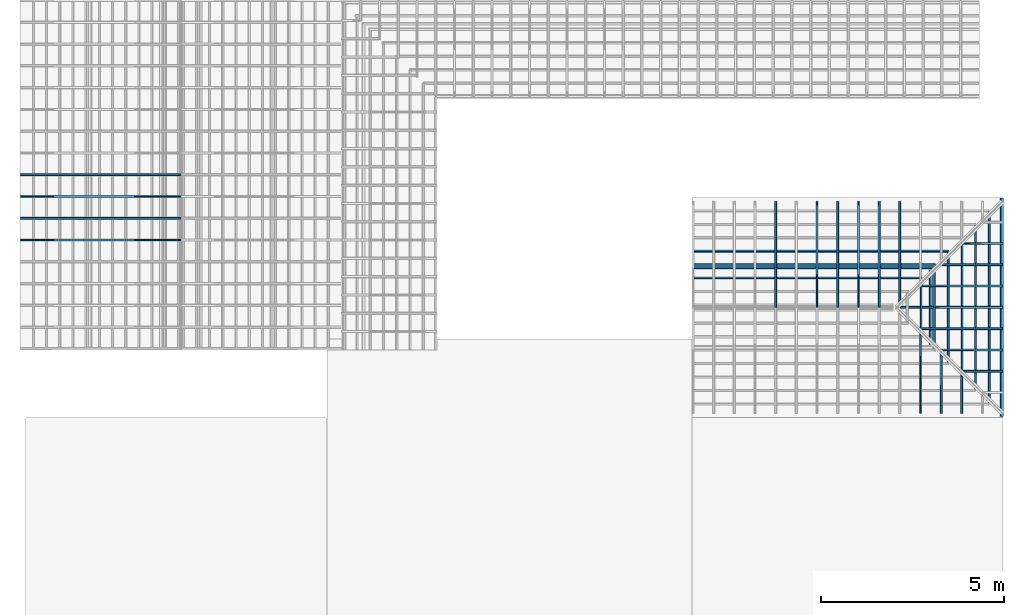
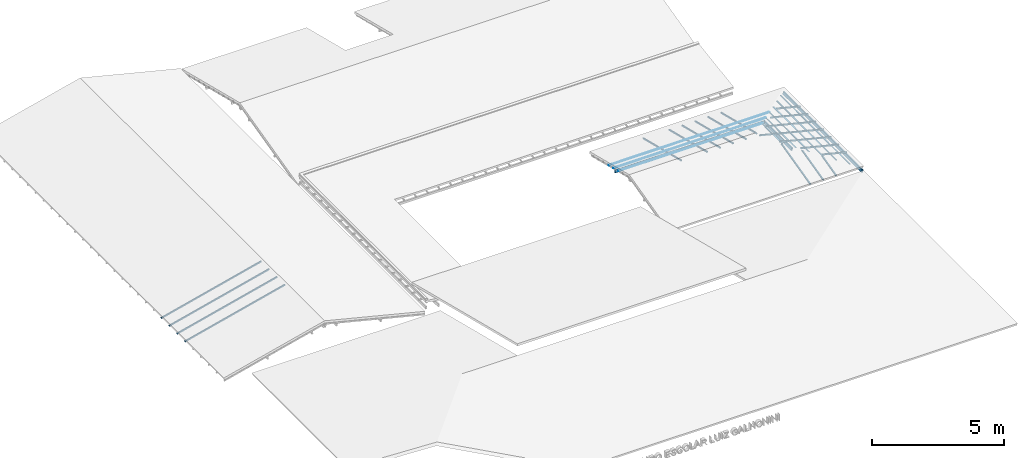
# One storey, part 2 of 10: 32 members, 4 elements without a shape of their own.
"""IFC2X3 building model written with IfcOpenShell, lengths in metres."""

import ifcopenshell
import ifcopenshell.guid

model = None  # the IFC model being written
_history = None  # IfcOwnerHistory: only IFC2X3 demands one
_inside = {}  # id of a spatial element -> (the spatial element, [elements in it])
_under = {}  # id of a project, library or spatial element -> (it, [spatial elements below it])
_declared = {}  # id of a project -> (the project, [libraries it declares])
_typed = {}  # id of a type object -> (the type object, [elements of that type])
_made_of = {}  # id of a material, layer set ... -> (it, [elements and type objects made of it])


def new_model(schema):
    """Start an empty IFC model of exactly this schema.

    Asked for "IFC4X3", IfcOpenShell would pick the latest addendum, in which some entities
    have other attributes; the version numbers below select the first issue.
    IFC2X3 requires an IfcOwnerHistory on every rooted entity: one is made here for all.
    """
    global model, _history
    if schema == "IFC4X3":
        model = ifcopenshell.file(schema_version=(4, 3, 0, 0))
    else:
        model = ifcopenshell.file(schema=schema)
    _inside.clear()
    _under.clear()
    _declared.clear()
    _typed.clear()
    _made_of.clear()
    _history = None
    if model.schema == "IFC2X3":
        org = make("IfcOrganization", Name="unknown")
        user = make(
            "IfcPersonAndOrganization",
            ThePerson=make("IfcPerson", FamilyName="unknown"),
            TheOrganization=org,
        )
        app = make(
            "IfcApplication",
            ApplicationDeveloper=org,
            Version="unknown",
            ApplicationFullName="unknown",
            ApplicationIdentifier="unknown",
        )
        _history = make(
            "IfcOwnerHistory",
            OwningUser=user,
            OwningApplication=app,
            ChangeAction="ADDED",
            CreationDate=0,
        )
    return model


def make(cls, **values):
    """One entity of the class cls with the attributes given. An attribute that is None is left unset."""
    return model.create_entity(
        cls, **{name: value for name, value in values.items() if value is not None}
    )


def entity(cls, *values):
    """Any entity or typed value of the class cls, its attributes in the order of the schema. None: left unset."""
    e = model.create_entity(cls)
    for i, value in enumerate(values):
        if value is not None:
            e[i] = value
    return e


def rooted(cls, **values):
    """An entity with a GlobalId (a new one), such as an element, a storey or a relation."""
    return make(cls, GlobalId=ifcopenshell.guid.new(), OwnerHistory=_history, **values)


def si_unit(unit_type, name, prefix=None):
    """IfcSIUnit, for example si_unit("LENGTHUNIT", "METRE", prefix="MILLI")."""
    return make("IfcSIUnit", UnitType=unit_type, Prefix=prefix, Name=name)


def converted_unit(unit_type, name, factor, base, dimensions=None, offset=None):
    """IfcConversionBasedUnit, such as the inch: factor (a typed value) times the base unit."""
    return make(
        "IfcConversionBasedUnit"
        if offset is None
        else "IfcConversionBasedUnitWithOffset",
        ConversionOffset=offset,
        Dimensions=None
        if dimensions is None
        else entity("IfcDimensionalExponents", *dimensions),
        UnitType=unit_type,
        Name=name,
        ConversionFactor=make(
            "IfcMeasureWithUnit", ValueComponent=factor, UnitComponent=base
        ),
    )


def derived_unit(unit_type, elements):
    """IfcDerivedUnit: a product of units, each with its exponent."""
    return make(
        "IfcDerivedUnit",
        Elements=[
            make("IfcDerivedUnitElement", Unit=unit, Exponent=power)
            for unit, power in elements
        ],
        UnitType=unit_type,
    )


def assignment(units):
    """IfcUnitAssignment: the units of a project."""
    return None if units is None else make("IfcUnitAssignment", Units=units)


def point(xyz):
    """IfcCartesianPoint."""
    return None if xyz is None else make("IfcCartesianPoint", Coordinates=xyz)


def direction(xyz):
    """IfcDirection."""
    return None if xyz is None else make("IfcDirection", DirectionRatios=xyz)


def frame(location, z_axis=None, x_axis=None):
    """IfcAxis2Placement3D, a coordinate frame: its origin and axes. An axis left out is left unset."""
    return make(
        "IfcAxis2Placement3D",
        Location=point(location),
        Axis=direction(z_axis),
        RefDirection=direction(x_axis),
    )


def frame_2d(location, x_axis=None):
    """IfcAxis2Placement2D, a coordinate frame in the plane: its origin and x axis."""
    return make(
        "IfcAxis2Placement2D", Location=point(location), RefDirection=direction(x_axis)
    )


def origin():
    """The frame at (0, 0, 0) with its axes left unset."""
    return frame((0.0, 0.0, 0.0))


def origin_2d_with_axis():
    """The frame at (0, 0) in the plane with the x axis (1, 0) written out."""
    return frame_2d((0.0, 0.0), x_axis=(1.0, 0.0))


def place(relative_to, where):
    """IfcLocalPlacement: puts the frame where relative to a parent placement (None: the world)."""
    return make(
        "IfcLocalPlacement", PlacementRelTo=relative_to, RelativePlacement=where
    )


def context(
    kind, dimensions, precision=None, world=None, true_north=None, identifier=None
):
    """IfcGeometricRepresentationContext, for example the 3D "Model" context."""
    return make(
        "IfcGeometricRepresentationContext",
        ContextIdentifier=identifier,
        ContextType=kind,
        CoordinateSpaceDimension=dimensions,
        Precision=precision,
        WorldCoordinateSystem=world,
        TrueNorth=true_north,
    )


def subcontext(parent, identifier, kind, view, scale=None):
    """IfcGeometricRepresentationSubContext, for example "Body" below "Model"."""
    return make(
        "IfcGeometricRepresentationSubContext",
        ContextIdentifier=identifier,
        ContextType=kind,
        ParentContext=parent,
        TargetScale=scale,
        TargetView=view,
    )


def project(units=None, contexts=None):
    """IfcProject with its units and contexts."""
    return rooted(
        "IfcProject",
        Name="project",
        RepresentationContexts=contexts,
        UnitsInContext=assignment(units),
    )


def spatial(cls, under=None, at=None, **own):
    """A site, building, storey or space (cls), placed at a placement, below another one or the project."""
    s = rooted(cls, ObjectPlacement=at, **own)
    if under is not None:
        _under.setdefault(under.id(), (under, []))[1].append(s)
    return s


def polyline(points):
    """IfcPolyline through the points."""
    return make("IfcPolyline", Points=[point(p) for p in points])


def profile(cls, at=None, kind="AREA", **sizes):
    """A parametric profile (cls). Its sizes go by their IFC names, for example OverallWidth=200.0."""
    return make(cls, ProfileType=kind, Position=at, **sizes)


def rectangle(**sizes):
    """IfcRectangleProfileDef."""
    return profile("IfcRectangleProfileDef", **sizes)


def extrude(swept, where, along, depth):
    """IfcExtrudedAreaSolid: the profile swept, set in the frame where, extruded along a direction by depth."""
    return make(
        "IfcExtrudedAreaSolid",
        SweptArea=swept,
        Position=where,
        ExtrudedDirection=direction(along),
        Depth=depth,
    )


def clip(a, b, op="DIFFERENCE"):
    """IfcBooleanClippingResult: the solid a cut by the half space b."""
    return make(
        "IfcBooleanClippingResult", Operator=op, FirstOperand=a, SecondOperand=b
    )


def halfspace(plane, agree):
    """IfcHalfSpaceSolid: all space on one side of the plane z = 0 of the frame plane."""
    return make(
        "IfcHalfSpaceSolid",
        BaseSurface=make("IfcPlane", Position=plane),
        AgreementFlag=agree,
    )


def bounded_halfspace(plane, agree, where, boundary):
    """IfcPolygonalBoundedHalfSpace: a half space limited to a polygon's prism."""
    return make(
        "IfcPolygonalBoundedHalfSpace",
        BaseSurface=make("IfcPlane", Position=plane),
        AgreementFlag=agree,
        Position=where,
        PolygonalBoundary=boundary,
    )


def shape(context_of_items, identifier, shape_type, items):
    """IfcShapeRepresentation: the items that make up one representation, for example the "Body"."""
    return make(
        "IfcShapeRepresentation",
        ContextOfItems=context_of_items,
        RepresentationIdentifier=identifier,
        RepresentationType=shape_type,
        Items=items,
    )


def source(mapping_origin, context_of_items, identifier, shape_type, items):
    """IfcRepresentationMap: a shape defined once, which mapped items show again and again."""
    return make(
        "IfcRepresentationMap",
        MappingOrigin=mapping_origin,
        MappedRepresentation=shape(context_of_items, identifier, shape_type, items),
    )


def transform(
    local_origin,
    x_axis=None,
    y_axis=None,
    z_axis=None,
    scale=None,
    scale2=None,
    scale3=None,
    uniform=True,
):
    """IfcCartesianTransformationOperator3D, or its non-uniform kind. x_axis, y_axis, z_axis: its Axis1, 2, 3."""
    if uniform:
        return make(
            "IfcCartesianTransformationOperator3D",
            Axis1=direction(x_axis),
            Axis2=direction(y_axis),
            LocalOrigin=point(local_origin),
            Scale=scale,
            Axis3=direction(z_axis),
        )
    return make(
        "IfcCartesianTransformationOperator3DnonUniform",
        Axis1=direction(x_axis),
        Axis2=direction(y_axis),
        LocalOrigin=point(local_origin),
        Scale=scale,
        Axis3=direction(z_axis),
        Scale2=scale2,
        Scale3=scale3,
    )


def mapped(mapping_source, mapping_target):
    """IfcMappedItem: shows the shape of a source again, moved by a transform."""
    return make(
        "IfcMappedItem", MappingSource=mapping_source, MappingTarget=mapping_target
    )


def material(Name=None, Category=None):
    """IfcMaterial."""
    return make("IfcMaterial", Name=Name, Category=Category)


def made_of(thing, what):
    """Note that an element or type object is made of a material, layer set ...; save() writes the relation."""
    if what is not None:
        _made_of.setdefault(what.id(), (what, []))[1].append(thing)
    return thing


def type_object(cls, material=None, **own):
    """A type object (cls), such as IfcWallType, which elements share."""
    return made_of(rooted(cls, **own), material)


def type_shapes(of_type, sources):
    """Give a type object the sources (RepresentationMaps) that its elements show as mapped items."""
    of_type.RepresentationMaps = sources


def element(
    cls,
    number,
    at=None,
    inside=None,
    cuts=None,
    type_object=None,
    material=None,
    context=None,
    identifier="Body",
    shape_type=None,
    held_by="IfcProductDefinitionShape",
    body=None,
    shapes=None,
    **own,
):
    """One element of the class cls, such as IfcWall. Its Tag is "e" and its number.

    at: its placement. inside: the storey or other place that contains it. cuts: it is an
    opening in that element (IfcRelVoidsElement). A single representation is given by context,
    identifier, shape_type and body (its items); several are given by shapes. held_by: the class
    of the entity that holds the representations. save() writes the other relations.
    """
    e = rooted(cls, Tag="e%d" % number, ObjectPlacement=at, **own)
    if body is not None:
        shapes = [shape(context, identifier, shape_type, body)]
    if shapes is not None:
        e.Representation = make(held_by, Representations=shapes)
    if inside is not None:
        _inside.setdefault(inside.id(), (inside, []))[1].append(e)
    if cuts is not None:
        rooted(
            "IfcRelVoidsElement", RelatingBuildingElement=cuts, RelatedOpeningElement=e
        )
    if type_object is not None:
        _typed.setdefault(type_object.id(), (type_object, []))[1].append(e)
    return made_of(e, material)


def aggregate(whole, parts):
    """IfcRelAggregates: a whole, such as a stair, and the parts it consists of."""
    return rooted("IfcRelAggregates", RelatingObject=whole, RelatedObjects=parts)


def save(model, path):
    """Write the relations noted so far, then the file.

    IfcRelAggregates (storeys below a building ...), IfcRelContainedInSpatialStructure (elements
    in a storey), IfcRelDefinesByType, IfcRelAssociatesMaterial and IfcRelDeclares: one each for
    every whole, place, type object, material and project.
    """
    for whole, parts in _under.values():
        aggregate(whole, parts)
    for where, things in _inside.values():
        rooted(
            "IfcRelContainedInSpatialStructure",
            RelatedElements=things,
            RelatingStructure=where,
        )
    for kind, things in _typed.values():
        rooted("IfcRelDefinesByType", RelatedObjects=things, RelatingType=kind)
    for what, things in _made_of.values():
        rooted("IfcRelAssociatesMaterial", RelatedObjects=things, RelatingMaterial=what)
    for by, libraries in _declared.values():
        rooted("IfcRelDeclares", RelatingContext=by, RelatedDefinitions=libraries)
    model.write(path)


model = new_model("IFC2X3")

# Units and contexts
model_context = context("Model", 3, precision=1e-05, world=origin(), true_north=direction((6.12303176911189e-17, 1.0)))
body_context = subcontext(model_context, "Body", "Model", "MODEL_VIEW")
ifc_project = project(units=[si_unit("LENGTHUNIT", "METRE"), si_unit("AREAUNIT", "SQUARE_METRE"), si_unit("VOLUMEUNIT", "CUBIC_METRE"), converted_unit("PLANEANGLEUNIT", "DEGREE", entity("IfcRatioMeasure", 0.0174532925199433), si_unit("PLANEANGLEUNIT", "RADIAN"), dimensions=[0, 0, 0, 0, 0, 0, 0]), si_unit("MASSUNIT", "GRAM", prefix="KILO"), derived_unit("MASSDENSITYUNIT", [(si_unit("MASSUNIT", "GRAM", prefix="KILO"), 1), (si_unit("LENGTHUNIT", "METRE"), -3)]), si_unit("TIMEUNIT", "SECOND"), si_unit("FREQUENCYUNIT", "HERTZ"), si_unit("THERMODYNAMICTEMPERATUREUNIT", "DEGREE_CELSIUS"), derived_unit("THERMALTRANSMITTANCEUNIT", [(si_unit("MASSUNIT", "GRAM", prefix="KILO"), 1), (si_unit("THERMODYNAMICTEMPERATUREUNIT", "KELVIN"), -1), (si_unit("TIMEUNIT", "SECOND"), -3)]), derived_unit("VOLUMETRICFLOWRATEUNIT", [(si_unit("LENGTHUNIT", "METRE"), 3), (si_unit("TIMEUNIT", "SECOND"), -1)]), si_unit("ELECTRICCURRENTUNIT", "AMPERE"), si_unit("ELECTRICVOLTAGEUNIT", "VOLT"), si_unit("POWERUNIT", "WATT"), si_unit("FORCEUNIT", "NEWTON", prefix="KILO"), si_unit("ILLUMINANCEUNIT", "LUX"), si_unit("LUMINOUSFLUXUNIT", "LUMEN"), si_unit("LUMINOUSINTENSITYUNIT", "CANDELA"), derived_unit("USERDEFINED", [(si_unit("MASSUNIT", "GRAM", prefix="KILO"), -1), (si_unit("LENGTHUNIT", "METRE"), -2), (si_unit("TIMEUNIT", "SECOND"), 3), (si_unit("LUMINOUSFLUXUNIT", "LUMEN"), 1)]), derived_unit("LINEARVELOCITYUNIT", [(si_unit("LENGTHUNIT", "METRE"), 1), (si_unit("TIMEUNIT", "SECOND"), -1)]), si_unit("PRESSUREUNIT", "PASCAL"), derived_unit("USERDEFINED", [(si_unit("LENGTHUNIT", "METRE"), -2), (si_unit("MASSUNIT", "GRAM", prefix="KILO"), 1), (si_unit("TIMEUNIT", "SECOND"), -2)])], contexts=[model_context])

# Site, building, storey
site_placement = place(None, frame((26.9889013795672, -17.5624287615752, 0.0)))
site = spatial("IfcSite", under=ifc_project, at=site_placement, Name="Default", CompositionType="ELEMENT")
building_placement = place(site_placement, origin())
building = spatial("IfcBuilding", under=site, at=building_placement, Name="C. C. L. Monsenhor Antônio Sampaio", CompositionType="ELEMENT")
storey_placement = place(building_placement, frame((0.0, 0.0, 4.3)))
storey = spatial("IfcBuildingStorey", under=building, at=storey_placement, Name="COBERTURA BLOCO 01", CompositionType="ELEMENT", Elevation=4.3)

# Roof, members
curtain_wall_type_1 = type_object("IfcCurtainWallType", PredefinedType="NOTDEFINED")
roof_1_placement = place(storey_placement, frame((0.0, 0.0, -4.3)))
roof_1 = element("IfcRoof", 1, at=roof_1_placement, inside=storey, type_object=curtain_wall_type_1, ShapeType="NOTDEFINED")
ifc_material = material(Name=".Madeira")
member_type_1 = type_object("IfcMemberType", Name="Terça", PredefinedType="MEMBER")
shared_shape_1 = source(origin(), body_context, "Body", "SweptSolid", [
    extrude(rectangle(XDim=0.12, YDim=0.0599999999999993, at=origin_2d_with_axis()), frame((0.0, -0.06, -6.56463625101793), z_axis=(0.0, 0.0, 1.0), x_axis=(0.0, -1.0, 0.0)), (0.0, 0.0, 1.0), 6.56463625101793),
])
type_shapes(member_type_1, [shared_shape_1])
member_1_placement = place(storey_placement, frame((10.2940134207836, -24.2185006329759, 1.98385857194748), z_axis=(1.0, 0.0, 0.0), x_axis=(0.0, -0.970142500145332, 0.242535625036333)))
member_1 = element("IfcMember", 2, at=member_1_placement, type_object=member_type_1, material=ifc_material, Name="Rectangular Mullion:Terça", ObjectType="Terça", context=body_context, shape_type="MappedRepresentation", body=[
    mapped(shared_shape_1, transform((0.0, 0.0, 0.0), scale=1.0)),
])
member_type_2 = type_object("IfcMemberType", Name="Terça", PredefinedType="MEMBER")
shared_shape_2 = source(origin(), body_context, "Body", "SweptSolid", [
    extrude(rectangle(XDim=0.12, YDim=0.0599999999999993, at=origin_2d_with_axis()), frame((-0.0299999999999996, -0.06, -5.97149287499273), z_axis=(0.0, 0.0, 1.0), x_axis=(0.0, -1.0, 0.0)), (0.0, 0.0, 1.0), 5.97149287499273),
])
type_shapes(member_type_2, [shared_shape_2])
member_2_placement = place(storey_placement, frame((12.2051941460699, -22.3073199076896, 1.50606339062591), z_axis=(0.0, 1.0, 0.0), x_axis=(0.970142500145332, 0.0, -0.242535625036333)))
member_2 = element("IfcMember", 3, at=member_2_placement, type_object=member_type_2, material=ifc_material, Name="Rectangular Mullion:Terça", ObjectType="Terça", context=body_context, shape_type="MappedRepresentation", body=[
    mapped(shared_shape_2, transform((0.0, 0.0, 0.0), scale=1.0)),
])
member_type_3 = type_object("IfcMemberType", Name="Terça", PredefinedType="MEMBER")
shared_shape_3 = source(origin(), body_context, "Body", "SweptSolid", [
    extrude(rectangle(XDim=0.12, YDim=0.0599999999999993, at=origin_2d_with_axis()), frame((0.0, -0.06, -2.03271432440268), z_axis=(0.0, 0.0, 1.0), x_axis=(0.0, -1.0, 0.0)), (0.0, 0.0, 1.0), 2.03271432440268),
])
type_shapes(member_type_3, [shared_shape_3])
member_3_placement = place(storey_placement, frame((10.2358048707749, -26.3094235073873, 1.99841070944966), z_axis=(0.0, -1.0, 0.0), x_axis=(-0.970142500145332, 0.0, 0.242535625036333)))
member_3 = element("IfcMember", 4, at=member_3_placement, type_object=member_type_3, material=ifc_material, Name="Rectangular Mullion:Terça", ObjectType="Terça", context=body_context, shape_type="MappedRepresentation", body=[
    mapped(shared_shape_3, transform((0.0, 0.0, 0.0), scale=1.0)),
])
aggregate(roof_1, [member_1, member_2, member_3])

curtain_wall_type_2 = type_object("IfcCurtainWallType", PredefinedType="NOTDEFINED")
roof_2_placement = place(storey_placement, frame((0.0, 0.0, -4.3)))
roof_2 = element("IfcRoof", 5, at=roof_2_placement, inside=storey, type_object=curtain_wall_type_2, ShapeType="NOTDEFINED")
member_type_4 = type_object("IfcMemberType", Name="Caibro", PredefinedType="MEMBER")
shared_shape_4 = source(origin(), body_context, "Body", "Clipping", [
    clip(extrude(rectangle(XDim=0.06, YDim=0.0499999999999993, at=origin_2d_with_axis()), frame((0.0, -0.03, -4.50666618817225), z_axis=(0.0, 0.0, 1.0), x_axis=(0.0, -1.0, 0.0)), (0.0, 0.0, 1.0), 4.52166618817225), halfspace(frame((-0.3048, 0.0, 0.0), z_axis=(0.0, 0.242535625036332, 0.970142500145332), x_axis=(0.0, 0.970142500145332, -0.242535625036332)), False)),
])
type_shapes(member_type_4, [shared_shape_4])
member_4_placement = place(storey_placement, frame((-10.2441903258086, -21.6677633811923, 1.22274577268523), z_axis=(0.970142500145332, 0.0, 0.242535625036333), x_axis=(0.0, -1.0, 0.0)))
member_4 = element("IfcMember", 6, at=member_4_placement, type_object=member_type_4, material=ifc_material, Name="Rectangular Mullion:Caibro", ObjectType="Caibro", context=body_context, shape_type="MappedRepresentation", body=[
    mapped(shared_shape_4, transform((0.0, 0.0, 0.0), scale=1.0)),
])
member_5_placement = place(storey_placement, frame((-10.2441903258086, -22.2628012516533, 1.22274577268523), z_axis=(0.970142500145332, 0.0, 0.242535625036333), x_axis=(0.0, -1.0, 0.0)))
member_5 = element("IfcMember", 7, at=member_5_placement, type_object=member_type_4, material=ifc_material, Name="Rectangular Mullion:Caibro", ObjectType="Caibro", context=body_context, shape_type="MappedRepresentation", body=[
    mapped(shared_shape_4, transform((0.0, 0.0, 0.0), scale=1.0)),
])
member_6_placement = place(storey_placement, frame((-10.2441903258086, -22.8578391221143, 1.22274577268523), z_axis=(0.970142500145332, 0.0, 0.242535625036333), x_axis=(0.0, -1.0, 0.0)))
member_6 = element("IfcMember", 8, at=member_6_placement, type_object=member_type_4, material=ifc_material, Name="Rectangular Mullion:Caibro", ObjectType="Caibro", context=body_context, shape_type="MappedRepresentation", body=[
    mapped(shared_shape_4, transform((0.0, 0.0, 0.0), scale=1.0)),
])
member_7_placement = place(storey_placement, frame((-10.2441903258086, -23.4528769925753, 1.22274577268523), z_axis=(0.970142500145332, 0.0, 0.242535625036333), x_axis=(0.0, -1.0, 0.0)))
member_7 = element("IfcMember", 9, at=member_7_placement, type_object=member_type_4, material=ifc_material, Name="Rectangular Mullion:Caibro", ObjectType="Caibro", context=body_context, shape_type="MappedRepresentation", body=[
    mapped(shared_shape_4, transform((0.0, 0.0, 0.0), scale=1.0)),
])
aggregate(roof_2, [member_4, member_5, member_6, member_7])

curtain_wall_type_3 = type_object("IfcCurtainWallType", PredefinedType="NOTDEFINED")
roof_3_placement = place(storey_placement, frame((0.0, 0.0, -4.3)))
roof_3 = element("IfcRoof", 10, at=roof_3_placement, inside=storey, type_object=curtain_wall_type_3, ShapeType="NOTDEFINED")
member_type_5 = type_object("IfcMemberType", Name="Ripa", PredefinedType="MEMBER")
shared_shape_5 = source(origin(), body_context, "Body", "SweptSolid", [
    extrude(rectangle(XDim=0.015, YDim=0.05, at=frame_2d((-1.69135538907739e-17, 0.0), x_axis=(1.0, 0.0))), frame((0.025, -0.1875, -5.22505626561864), z_axis=(0.0, 0.0, 1.0), x_axis=(0.0, -1.0, 0.0)), (0.0, 0.0, 1.0), 5.22505626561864),
])
type_shapes(member_type_5, [shared_shape_5])
member_8_placement = place(storey_placement, frame((11.8319758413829, -27.9055944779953, 1.59744560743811), z_axis=(0.0, -1.0, 0.0), x_axis=(-0.970142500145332, 0.0, 0.242535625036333)))
member_8 = element("IfcMember", 11, at=member_8_placement, type_object=member_type_5, material=ifc_material, Name="Rectangular Mullion:Ripa", ObjectType="Ripa", context=body_context, shape_type="MappedRepresentation", body=[
    mapped(shared_shape_5, transform((0.0, 0.0, 0.0), scale=1.0)),
])
member_type_6 = type_object("IfcMemberType", Name="Ripa", PredefinedType="MEMBER")
shared_shape_6 = source(origin(), body_context, "Body", "SweptSolid", [
    extrude(rectangle(XDim=0.015, YDim=0.05, at=frame_2d((-1.69135538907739e-17, 0.0), x_axis=(1.0, 0.0))), frame((0.025, -0.1875, -4.47861965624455), z_axis=(0.0, 0.0, 1.0), x_axis=(0.0, -1.0, 0.0)), (0.0, 0.0, 1.0), 4.47861965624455),
])
type_shapes(member_type_6, [shared_shape_6])
member_9_placement = place(storey_placement, frame((11.4587575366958, -27.5323761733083, 1.69075018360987), z_axis=(0.0, -1.0, 0.0), x_axis=(-0.970142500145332, 0.0, 0.242535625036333)))
member_9 = element("IfcMember", 12, at=member_9_placement, type_object=member_type_6, material=ifc_material, Name="Rectangular Mullion:Ripa", ObjectType="Ripa", context=body_context, shape_type="MappedRepresentation", body=[
    mapped(shared_shape_6, transform((0.0, 0.0, 0.0), scale=1.0)),
])
member_type_7 = type_object("IfcMemberType", Name="Ripa", PredefinedType="MEMBER")
shared_shape_7 = source(origin(), body_context, "Body", "SweptSolid", [
    extrude(rectangle(XDim=0.015, YDim=0.05, at=frame_2d((-1.69135538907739e-17, 0.0), x_axis=(1.0, 0.0))), frame((0.025, -0.1875, -3.73218304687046), z_axis=(0.0, 0.0, 1.0), x_axis=(0.0, -1.0, 0.0)), (0.0, 0.0, 1.0), 3.73218304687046),
])
type_shapes(member_type_7, [shared_shape_7])
member_10_placement = place(storey_placement, frame((11.0855392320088, -27.1591578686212, 1.78405475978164), z_axis=(0.0, -1.0, 0.0), x_axis=(-0.970142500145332, 0.0, 0.242535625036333)))
member_10 = element("IfcMember", 13, at=member_10_placement, type_object=member_type_7, material=ifc_material, Name="Rectangular Mullion:Ripa", ObjectType="Ripa", context=body_context, shape_type="MappedRepresentation", body=[
    mapped(shared_shape_7, transform((0.0, 0.0, 0.0), scale=1.0)),
])
member_type_8 = type_object("IfcMemberType", Name="Ripa", PredefinedType="MEMBER")
shared_shape_8 = source(origin(), body_context, "Body", "SweptSolid", [
    extrude(rectangle(XDim=0.015, YDim=0.05, at=frame_2d((-1.69135538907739e-17, 0.0), x_axis=(1.0, 0.0))), frame((0.025, -0.1875, -2.98574643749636), z_axis=(0.0, 0.0, 1.0), x_axis=(0.0, -1.0, 0.0)), (0.0, 0.0, 1.0), 2.98574643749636),
])
type_shapes(member_type_8, [shared_shape_8])
member_11_placement = place(storey_placement, frame((10.7123209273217, -26.7859395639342, 1.8773593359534), z_axis=(0.0, -1.0, 0.0), x_axis=(-0.970142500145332, 0.0, 0.242535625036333)))
member_11 = element("IfcMember", 14, at=member_11_placement, type_object=member_type_8, material=ifc_material, Name="Rectangular Mullion:Ripa", ObjectType="Ripa", context=body_context, shape_type="MappedRepresentation", body=[
    mapped(shared_shape_8, transform((0.0, 0.0, 0.0), scale=1.0)),
])
member_type_9 = type_object("IfcMemberType", Name="Ripa", PredefinedType="MEMBER")
shared_shape_9 = source(origin(), body_context, "Body", "SweptSolid", [
    extrude(rectangle(XDim=0.015, YDim=0.05, at=frame_2d((-1.69135538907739e-17, 0.0), x_axis=(1.0, 0.0))), frame((0.025, -0.1875, -2.23930982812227), z_axis=(0.0, 0.0, 1.0), x_axis=(0.0, -1.0, 0.0)), (0.0, 0.0, 1.0), 2.23930982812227),
])
type_shapes(member_type_9, [shared_shape_9])
member_12_placement = place(storey_placement, frame((10.3391026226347, -26.4127212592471, 1.97066391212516), z_axis=(0.0, -1.0, 0.0), x_axis=(-0.970142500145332, 0.0, 0.242535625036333)))
member_12 = element("IfcMember", 15, at=member_12_placement, type_object=member_type_9, material=ifc_material, Name="Rectangular Mullion:Ripa", ObjectType="Ripa", context=body_context, shape_type="MappedRepresentation", body=[
    mapped(shared_shape_9, transform((0.0, 0.0, 0.0), scale=1.0)),
])
member_type_10 = type_object("IfcMemberType", Name="Ripa", PredefinedType="MEMBER")
shared_shape_10 = source(origin(), body_context, "Body", "SweptSolid", [
    extrude(rectangle(XDim=0.015, YDim=0.05, at=frame_2d((-1.69135538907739e-17, 0.0), x_axis=(1.0, 0.0))), frame((0.025, -0.1875, -1.49287321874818), z_axis=(0.0, 0.0, 1.0), x_axis=(0.0, -1.0, 0.0)), (0.0, 0.0, 1.0), 1.49287321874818),
])
type_shapes(member_type_10, [shared_shape_10])
member_13_placement = place(storey_placement, frame((9.96588431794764, -26.0395029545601, 2.06396848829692), z_axis=(0.0, -1.0, 0.0), x_axis=(-0.970142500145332, 0.0, 0.242535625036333)))
member_13 = element("IfcMember", 16, at=member_13_placement, type_object=member_type_10, material=ifc_material, Name="Rectangular Mullion:Ripa", ObjectType="Ripa", context=body_context, shape_type="MappedRepresentation", body=[
    mapped(shared_shape_10, transform((0.0, 0.0, 0.0), scale=1.0)),
])
member_type_11 = type_object("IfcMemberType", Name="Ripa", PredefinedType="MEMBER")
shared_shape_11 = source(origin(), body_context, "Body", "SweptSolid", [
    extrude(rectangle(XDim=0.015, YDim=0.05, at=frame_2d((-1.69135538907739e-17, 0.0), x_axis=(1.0, 0.0))), frame((0.025, -0.1875, -7.00719732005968), z_axis=(0.0, 0.0, 1.0), x_axis=(0.0, -1.0, 0.0)), (0.0, 0.0, 1.0), 7.00719732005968),
])
type_shapes(member_type_11, [shared_shape_11])
member_14_placement = place(storey_placement, frame((10.7365744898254, -23.7759395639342, 1.87129594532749), z_axis=(1.0, 0.0, 0.0), x_axis=(0.0, -0.970142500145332, 0.242535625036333)))
member_14 = element("IfcMember", 17, at=member_14_placement, type_object=member_type_11, material=ifc_material, Name="Rectangular Mullion:Ripa", ObjectType="Ripa", context=body_context, shape_type="MappedRepresentation", body=[
    mapped(shared_shape_11, transform((0.0, 0.0, 0.0), scale=1.0)),
])
member_type_12 = type_object("IfcMemberType", Name="Ripa", PredefinedType="MEMBER")
shared_shape_12 = source(origin(), body_context, "Body", "SweptSolid", [
    extrude(rectangle(XDim=0.015, YDim=0.05, at=frame_2d((-1.69135538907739e-17, 0.0), x_axis=(1.0, 0.0))), frame((0.025, -0.1875, -6.64004240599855), z_axis=(0.0, 0.0, 1.0), x_axis=(0.0, -1.0, 0.0)), (0.0, 0.0, 1.0), 6.64004240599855),
])
type_shapes(member_type_12, [shared_shape_12])
member_15_placement = place(storey_placement, frame((10.3694195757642, -24.1430944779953, 1.96308467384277), z_axis=(1.0, 0.0, 0.0), x_axis=(0.0, -0.970142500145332, 0.242535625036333)))
member_15 = element("IfcMember", 18, at=member_15_placement, type_object=member_type_12, material=ifc_material, Name="Rectangular Mullion:Ripa", ObjectType="Ripa", context=body_context, shape_type="MappedRepresentation", body=[
    mapped(shared_shape_12, transform((0.0, 0.0, 0.0), scale=1.0)),
])
member_type_13 = type_object("IfcMemberType", Name="Ripa", PredefinedType="MEMBER")
shared_shape_13 = source(origin(), body_context, "Body", "SweptSolid", [
    extrude(rectangle(XDim=0.015, YDim=0.05, at=frame_2d((-1.69135538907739e-17, 0.0), x_axis=(1.0, 0.0))), frame((0.025, -0.1875, -6.27288749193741), z_axis=(0.0, 0.0, 1.0), x_axis=(0.0, -1.0, 0.0)), (0.0, 0.0, 1.0), 6.27288749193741),
])
type_shapes(member_type_13, [shared_shape_13])
member_16_placement = place(storey_placement, frame((10.0022646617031, -24.5102493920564, 2.05487340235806), z_axis=(1.0, 0.0, 0.0), x_axis=(0.0, -0.970142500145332, 0.242535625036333)))
member_16 = element("IfcMember", 19, at=member_16_placement, type_object=member_type_13, material=ifc_material, Name="Rectangular Mullion:Ripa", ObjectType="Ripa", context=body_context, shape_type="MappedRepresentation", body=[
    mapped(shared_shape_13, transform((0.0, 0.0, 0.0), scale=1.0)),
])
aggregate(roof_3, [member_8, member_9, member_10, member_11, member_12, member_13, member_14, member_15, member_16])

roof_4_placement = place(storey_placement, frame((0.0, 0.0, -4.3)))
roof_4 = element("IfcRoof", 20, at=roof_4_placement, inside=storey, type_object=curtain_wall_type_2, ShapeType="NOTDEFINED")
member_type_14 = type_object("IfcMemberType", Name="Caibro", PredefinedType="MEMBER")
shared_shape_14 = source(origin(), body_context, "Body", "Clipping", [
    clip(extrude(rectangle(XDim=0.06, YDim=0.0499999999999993, at=origin_2d_with_axis()), frame((0.0, -0.03, -2.97455934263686), z_axis=(0.0, 0.0, 1.0), x_axis=(0.0, -1.0, 0.0)), (0.0, 0.0, 1.0), 2.98955934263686), halfspace(frame((-0.3048, 0.0, 0.0), z_axis=(0.0, 0.242535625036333, 0.970142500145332), x_axis=(0.0, 0.970142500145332, -0.242535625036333)), False)),
])
type_shapes(member_type_14, [shared_shape_14])
member_17_placement = place(storey_placement, frame((8.83986735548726, -25.293066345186, 2.37365528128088), z_axis=(0.0, -0.970142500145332, 0.242535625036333), x_axis=(-1.0, 0.0, 0.0)))
member_17 = element("IfcMember", 21, at=member_17_placement, type_object=member_type_14, material=ifc_material, Name="Rectangular Mullion:Caibro", ObjectType="Caibro", context=body_context, shape_type="MappedRepresentation", body=[
    mapped(shared_shape_14, transform((0.0, 0.0, 0.0), scale=1.0)),
])
member_18_placement = place(storey_placement, frame((8.27481289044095, -25.293066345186, 2.37365528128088), z_axis=(0.0, -0.970142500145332, 0.242535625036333), x_axis=(-1.0, 0.0, 0.0)))
member_18 = element("IfcMember", 22, at=member_18_placement, type_object=member_type_14, material=ifc_material, Name="Rectangular Mullion:Caibro", ObjectType="Caibro", context=body_context, shape_type="MappedRepresentation", body=[
    mapped(shared_shape_14, transform((0.0, 0.0, 0.0), scale=1.0)),
])
member_19_placement = place(storey_placement, frame((7.70975842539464, -25.293066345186, 2.37365528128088), z_axis=(0.0, -0.970142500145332, 0.242535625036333), x_axis=(-1.0, 0.0, 0.0)))
member_19 = element("IfcMember", 23, at=member_19_placement, type_object=member_type_14, material=ifc_material, Name="Rectangular Mullion:Caibro", ObjectType="Caibro", context=body_context, shape_type="MappedRepresentation", body=[
    mapped(shared_shape_14, transform((0.0, 0.0, 0.0), scale=1.0)),
])
member_20_placement = place(storey_placement, frame((7.14470396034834, -25.293066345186, 2.37365528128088), z_axis=(0.0, -0.970142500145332, 0.242535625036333), x_axis=(-1.0, 0.0, 0.0)))
member_20 = element("IfcMember", 24, at=member_20_placement, type_object=member_type_14, material=ifc_material, Name="Rectangular Mullion:Caibro", ObjectType="Caibro", context=body_context, shape_type="MappedRepresentation", body=[
    mapped(shared_shape_14, transform((0.0, 0.0, 0.0), scale=1.0)),
])
member_21_placement = place(storey_placement, frame((6.01459503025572, -25.293066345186, 2.37365528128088), z_axis=(0.0, -0.970142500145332, 0.242535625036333), x_axis=(-1.0, 0.0, 0.0)))
member_21 = element("IfcMember", 25, at=member_21_placement, type_object=member_type_14, material=ifc_material, Name="Rectangular Mullion:Caibro", ObjectType="Caibro", context=body_context, shape_type="MappedRepresentation", body=[
    mapped(shared_shape_14, transform((0.0, 0.0, 0.0), scale=1.0)),
])
member_type_15 = type_object("IfcMemberType", Name="Caibro", PredefinedType="MEMBER")
shared_shape_15 = source(origin(), body_context, "Body", "Clipping", [
    clip(extrude(rectangle(XDim=0.06, YDim=0.0499999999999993, at=origin_2d_with_axis()), frame((0.0, -0.03, -2.30400983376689), z_axis=(0.0, 0.0, 1.0), x_axis=(0.0, -1.0, 0.0)), (0.0, 0.0, 1.0), 2.25797221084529), halfspace(frame((-0.0358870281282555, 91.44, -0.0348155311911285), z_axis=(0.717740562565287, 0.0, 0.696310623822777), x_axis=(0.696310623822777, 0.0, -0.717740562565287)), False)),
])
type_shapes(member_type_15, [shared_shape_15])
member_22_placement = place(storey_placement, frame((9.96997628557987, -25.9435949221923, 2.21102313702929), z_axis=(0.0, 0.970142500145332, 0.242535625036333), x_axis=(1.0, 0.0, 0.0)))
member_22 = element("IfcMember", 26, at=member_22_placement, type_object=member_type_15, material=ifc_material, Name="Rectangular Mullion:Caibro", ObjectType="Caibro", context=body_context, shape_type="MappedRepresentation", body=[
    mapped(shared_shape_15, transform((0.0, 0.0, 0.0), scale=1.0)),
])
member_type_16 = type_object("IfcMemberType", Name="Caibro", PredefinedType="MEMBER")
shared_shape_16 = source(origin(), body_context, "Body", "Clipping", [
    clip(extrude(rectangle(XDim=0.06, YDim=0.0499999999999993, at=origin_2d_with_axis()), frame((0.0, -0.03, -1.72156502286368), z_axis=(0.0, 0.0, 1.0), x_axis=(0.0, -1.0, 0.0)), (0.0, 0.0, 1.0), 1.67552739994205), halfspace(frame((-0.0358870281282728, 91.44, -0.0348155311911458), z_axis=(0.717740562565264, 0.0, 0.696310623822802), x_axis=(0.696310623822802, 0.0, -0.717740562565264)), False)),
])
type_shapes(member_type_16, [shared_shape_16])
member_23_placement = place(storey_placement, frame((10.5350307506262, -26.5086493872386, 2.06975952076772), z_axis=(0.0, 0.970142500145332, 0.242535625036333), x_axis=(1.0, 0.0, 0.0)))
member_23 = element("IfcMember", 27, at=member_23_placement, type_object=member_type_16, material=ifc_material, Name="Rectangular Mullion:Caibro", ObjectType="Caibro", context=body_context, shape_type="MappedRepresentation", body=[
    mapped(shared_shape_16, transform((0.0, 0.0, 0.0), scale=1.0)),
])
member_type_17 = type_object("IfcMemberType", Name="Caibro", PredefinedType="MEMBER")
shared_shape_17 = source(origin(), body_context, "Body", "Clipping", [
    clip(extrude(rectangle(XDim=0.06, YDim=0.0499999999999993, at=origin_2d_with_axis()), frame((0.0, -0.03, -1.13912021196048), z_axis=(0.0, 0.0, 1.0), x_axis=(0.0, -1.0, 0.0)), (0.0, 0.0, 1.0), 1.09308258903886), halfspace(frame((-0.0358870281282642, 91.44, -0.0348155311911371), z_axis=(0.717740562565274, 0.0, 0.696310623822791), x_axis=(0.696310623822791, 0.0, -0.717740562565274)), False)),
])
type_shapes(member_type_17, [shared_shape_17])
member_24_placement = place(storey_placement, frame((11.1000852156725, -27.0737038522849, 1.92849590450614), z_axis=(0.0, 0.970142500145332, 0.242535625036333), x_axis=(1.0, 0.0, 0.0)))
member_24 = element("IfcMember", 28, at=member_24_placement, type_object=member_type_17, material=ifc_material, Name="Rectangular Mullion:Caibro", ObjectType="Caibro", context=body_context, shape_type="MappedRepresentation", body=[
    mapped(shared_shape_17, transform((0.0, 0.0, 0.0), scale=1.0)),
])
member_type_18 = type_object("IfcMemberType", Name="Caibro", PredefinedType="MEMBER")
shared_shape_18 = source(origin(), body_context, "Body", "Clipping", [
    clip(extrude(rectangle(XDim=0.06, YDim=0.0499999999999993, at=origin_2d_with_axis()), frame((0.0, -0.03, -2.88645464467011), z_axis=(0.0, 0.0, 1.0), x_axis=(0.0, -1.0, 0.0)), (0.0, 0.0, 1.0), 2.84041702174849), halfspace(frame((-0.529167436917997, 91.44, -0.617260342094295), z_axis=(-0.71774056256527, 0.0, 0.696310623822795), x_axis=(0.696310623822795, 0.0, 0.71774056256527)), False)),
])
type_shapes(member_type_18, [shared_shape_18])
member_25_placement = place(storey_placement, frame((9.40492182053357, -25.207592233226, 2.35228675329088), z_axis=(0.0, -0.970142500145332, 0.242535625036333), x_axis=(-1.0, 0.0, 0.0)))
member_25 = element("IfcMember", 29, at=member_25_placement, type_object=member_type_18, material=ifc_material, Name="Rectangular Mullion:Caibro", ObjectType="Caibro", context=body_context, shape_type="MappedRepresentation", body=[
    mapped(shared_shape_18, transform((0.0, 0.0, 0.0), scale=1.0)),
])
member_type_19 = type_object("IfcMemberType", Name="Caibro", PredefinedType="MEMBER")
shared_shape_19 = source(origin(), body_context, "Body", "Clipping", [
    clip(extrude(rectangle(XDim=0.06, YDim=0.0499999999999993, at=origin_2d_with_axis()), frame((0.0, -0.03, -1.17436209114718), z_axis=(0.0, 0.0, 1.0), x_axis=(0.0, -1.0, 0.0)), (0.0, 0.0, 1.0), 1.1283244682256), halfspace(frame((-0.546262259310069, 91.44, -0.634881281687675), z_axis=(-0.717740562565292, 0.0, 0.696310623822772), x_axis=(0.696310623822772, 0.0, 0.717740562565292)), False)),
])
type_shapes(member_type_19, [shared_shape_19])
member_26_placement = place(storey_placement, frame((11.0658955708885, -27.0395142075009, 1.93704331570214), z_axis=(-0.970142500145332, 0.0, 0.242535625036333), x_axis=(0.0, 1.0, 0.0)))
member_26 = element("IfcMember", 30, at=member_26_placement, type_object=member_type_19, material=ifc_material, Name="Rectangular Mullion:Caibro", ObjectType="Caibro", context=body_context, shape_type="MappedRepresentation", body=[
    mapped(shared_shape_19, transform((0.0, 0.0, 0.0), scale=1.0)),
])
member_type_20 = type_object("IfcMemberType", Name="Caibro", PredefinedType="MEMBER")
shared_shape_20 = source(origin(), body_context, "Body", "Clipping", [
    clip(extrude(rectangle(XDim=0.06, YDim=0.0499999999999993, at=origin_2d_with_axis()), frame((0.0, -0.03, -1.77442784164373), z_axis=(0.0, 0.0, 1.0), x_axis=(0.0, -1.0, 0.0)), (0.0, 0.0, 1.0), 1.72839021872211), halfspace(frame((-0.546262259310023, 91.44, -0.634881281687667), z_axis=(-0.717740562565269, 0.0, 0.696310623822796), x_axis=(0.696310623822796, 0.0, 0.717740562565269)), False)),
])
type_shapes(member_type_20, [shared_shape_20])
member_27_placement = place(storey_placement, frame((10.4837462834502, -26.4573649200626, 2.08258063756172), z_axis=(-0.970142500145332, 0.0, 0.242535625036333), x_axis=(0.0, 1.0, 0.0)))
member_27 = element("IfcMember", 31, at=member_27_placement, type_object=member_type_20, material=ifc_material, Name="Rectangular Mullion:Caibro", ObjectType="Caibro", context=body_context, shape_type="MappedRepresentation", body=[
    mapped(shared_shape_20, transform((0.0, 0.0, 0.0), scale=1.0)),
])
member_type_21 = type_object("IfcMemberType", Name="Caibro", PredefinedType="MEMBER")
shared_shape_21 = source(origin(), body_context, "Body", "Clipping", [
    clip(extrude(rectangle(XDim=0.06, YDim=0.0499999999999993, at=origin_2d_with_axis()), frame((0.0, -0.03, -2.3744935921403), z_axis=(0.0, 0.0, 1.0), x_axis=(0.0, -1.0, 0.0)), (0.0, 0.0, 1.0), 2.32845596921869), halfspace(frame((-0.546262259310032, 91.44, -0.634881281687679), z_axis=(-0.717740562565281, 0.0, 0.696310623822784), x_axis=(0.696310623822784, 0.0, 0.717740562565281)), False)),
])
type_shapes(member_type_21, [shared_shape_21])
member_28_placement = place(storey_placement, frame((9.90159699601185, -25.8752156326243, 2.2281179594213), z_axis=(-0.970142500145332, 0.0, 0.242535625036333), x_axis=(0.0, 1.0, 0.0)))
member_28 = element("IfcMember", 32, at=member_28_placement, type_object=member_type_21, material=ifc_material, Name="Rectangular Mullion:Caibro", ObjectType="Caibro", context=body_context, shape_type="MappedRepresentation", body=[
    mapped(shared_shape_21, transform((0.0, 0.0, 0.0), scale=1.0)),
])
member_type_22 = type_object("IfcMemberType", Name="Caibro", PredefinedType="MEMBER")
shared_shape_22 = source(origin(), body_context, "Body", "Clipping", [
    clip(clip(extrude(rectangle(XDim=0.06, YDim=0.0499999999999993, at=origin_2d_with_axis()), frame((0.0, -0.03, -2.97455934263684), z_axis=(0.0, 0.0, 1.0), x_axis=(0.0, -1.0, 0.0)), (0.0, 0.0, 1.0), 2.90275230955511), bounded_halfspace(frame((-0.546262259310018, 91.44, -0.634881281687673), z_axis=(-0.71774056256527, 0.0, 0.696310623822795), x_axis=(0.696310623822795, 0.0, 0.71774056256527)), False, frame((0.0, -0.03, -2.97455934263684), z_axis=(0.0, 0.0, 1.0), x_axis=(0.0, -1.0, 0.0)), polyline([(0.03, -0.0249999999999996), (0.0300000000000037, 0.0), (-0.03, 0.0), (-0.03, -0.0249999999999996), (0.03, -0.0249999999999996)]))), bounded_halfspace(frame((0.0, 91.44, -0.071807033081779), z_axis=(0.717740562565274, 0.0, 0.696310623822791), x_axis=(0.696310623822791, 0.0, -0.717740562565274)), False, frame((0.0, -0.03, -2.97455934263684), z_axis=(0.0, 0.0, 1.0), x_axis=(0.0, -1.0, 0.0)), polyline([(0.03, 0.0), (0.03, 0.0249999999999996), (-0.03, 0.0249999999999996), (-0.03, 0.0), (0.03, 0.0)]))),
])
type_shapes(member_type_22, [shared_shape_22])
member_29_placement = place(storey_placement, frame((9.31944770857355, -25.293066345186, 2.37365528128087), z_axis=(-0.970142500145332, 0.0, 0.242535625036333), x_axis=(0.0, 1.0, 0.0)))
member_29 = element("IfcMember", 33, at=member_29_placement, type_object=member_type_22, material=ifc_material, Name="Rectangular Mullion:Caibro", ObjectType="Caibro", context=body_context, shape_type="MappedRepresentation", body=[
    mapped(shared_shape_22, transform((0.0, 0.0, 0.0), scale=1.0)),
])
member_type_23 = type_object("IfcMemberType", Name="Caibro", PredefinedType="MEMBER")
shared_shape_23 = source(origin(), body_context, "Body", "Clipping", [
    clip(extrude(rectangle(XDim=0.06, YDim=0.0499999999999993, at=origin_2d_with_axis()), frame((0.0, -0.03, -2.37449359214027), z_axis=(0.0, 0.0, 1.0), x_axis=(0.0, -1.0, 0.0)), (0.0, 0.0, 1.0), 2.32845596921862), halfspace(frame((-0.0358870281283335, 91.44, -0.0348155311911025), z_axis=(0.717740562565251, 0.0, 0.696310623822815), x_axis=(0.696310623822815, 0.0, -0.717740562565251)), False)),
])
type_shapes(member_type_23, [shared_shape_23])
member_30_placement = place(storey_placement, frame((9.90159699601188, -24.7109170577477, 2.22811795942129), z_axis=(-0.970142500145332, 0.0, 0.242535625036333), x_axis=(0.0, 1.0, 0.0)))
member_30 = element("IfcMember", 34, at=member_30_placement, type_object=member_type_23, material=ifc_material, Name="Rectangular Mullion:Caibro", ObjectType="Caibro", context=body_context, shape_type="MappedRepresentation", body=[
    mapped(shared_shape_23, transform((0.0, 0.0, 0.0), scale=1.0)),
])
member_type_24 = type_object("IfcMemberType", Name="Caibro", PredefinedType="MEMBER")
shared_shape_24 = source(origin(), body_context, "Body", "Clipping", [
    clip(extrude(rectangle(XDim=0.06, YDim=0.0499999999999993, at=origin_2d_with_axis()), frame((0.0, -0.03, -1.77442784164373), z_axis=(0.0, 0.0, 1.0), x_axis=(0.0, -1.0, 0.0)), (0.0, 0.0, 1.0), 1.7283902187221), halfspace(frame((-0.0358870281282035, 91.44, -0.0348155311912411), z_axis=(0.717740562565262, 0.0, 0.696310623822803), x_axis=(0.696310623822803, 0.0, -0.717740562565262)), False)),
])
type_shapes(member_type_24, [shared_shape_24])
member_31_placement = place(storey_placement, frame((10.4837462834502, -24.1287677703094, 2.08258063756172), z_axis=(-0.970142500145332, 0.0, 0.242535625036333), x_axis=(0.0, 1.0, 0.0)))
member_31 = element("IfcMember", 35, at=member_31_placement, type_object=member_type_24, material=ifc_material, Name="Rectangular Mullion:Caibro", ObjectType="Caibro", context=body_context, shape_type="MappedRepresentation", body=[
    mapped(shared_shape_24, transform((0.0, 0.0, 0.0), scale=1.0)),
])
member_type_25 = type_object("IfcMemberType", Name="Caibro", PredefinedType="MEMBER")
shared_shape_25 = source(origin(), body_context, "Body", "Clipping", [
    clip(extrude(rectangle(XDim=0.06, YDim=0.0499999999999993, at=origin_2d_with_axis()), frame((0.0, -0.03, -1.17436209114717), z_axis=(0.0, 0.0, 1.0), x_axis=(0.0, -1.0, 0.0)), (0.0, 0.0, 1.0), 1.12832446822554), halfspace(frame((-0.0358870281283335, 91.44, -0.0348155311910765), z_axis=(0.717740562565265, 0.0, 0.696310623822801), x_axis=(0.696310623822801, 0.0, -0.717740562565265)), False)),
])
type_shapes(member_type_25, [shared_shape_25])
member_32_placement = place(storey_placement, frame((11.0658955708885, -23.546618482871, 1.93704331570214), z_axis=(-0.970142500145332, 0.0, 0.242535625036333), x_axis=(0.0, 1.0, 0.0)))
member_32 = element("IfcMember", 36, at=member_32_placement, type_object=member_type_25, material=ifc_material, Name="Rectangular Mullion:Caibro", ObjectType="Caibro", context=body_context, shape_type="MappedRepresentation", body=[
    mapped(shared_shape_25, transform((0.0, 0.0, 0.0), scale=1.0)),
])
aggregate(roof_4, [member_22, member_23, member_24, member_25, member_17, member_18, member_19, member_20, member_21, member_26, member_27, member_28, member_29, member_30, member_31, member_32])

save(model, "model.ifc")
